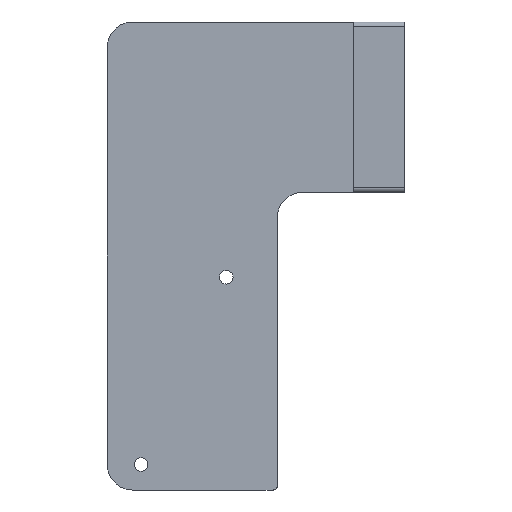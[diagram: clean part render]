
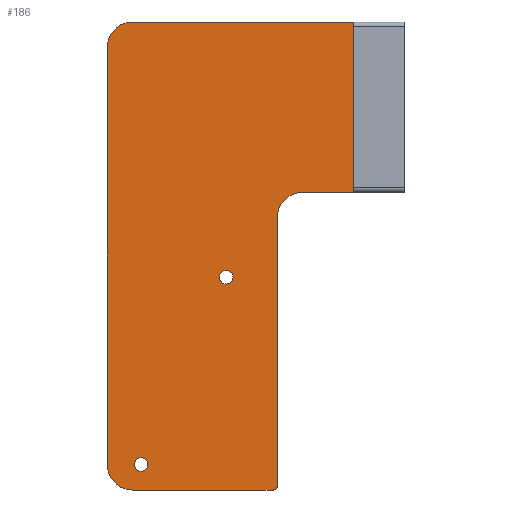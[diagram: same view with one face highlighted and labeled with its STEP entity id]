
A CAD part, left-side view. The second image highlights one B-rep face of the part: STEP entity #186.
In plain terms, the highlighted planar face has unit normal (-1, 0, 0).
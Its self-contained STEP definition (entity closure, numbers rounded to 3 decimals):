
#5 = ORIENTED_EDGE ( 'NONE', *, *, #836, .T. ) ;
#10 = AXIS2_PLACEMENT_3D ( 'NONE', #1083, #553, #479 ) ;
#19 = ORIENTED_EDGE ( 'NONE', *, *, #309, .T. ) ;
#22 = ORIENTED_EDGE ( 'NONE', *, *, #211, .T. ) ;
#25 = CARTESIAN_POINT ( 'NONE',  ( 24., 31., -51.2 ) ) ;
#30 = LINE ( 'NONE', #801, #143 ) ;
#35 = EDGE_CURVE ( 'NONE', #1017, #514, #180, .T. ) ;
#41 = LINE ( 'NONE', #483, #690 ) ;
#42 = CIRCLE ( 'NONE', #82, 0.8 ) ;
#50 = LINE ( 'NONE', #279, #636 ) ;
#52 = DIRECTION ( 'NONE',  ( 0., 0., -1. ) ) ;
#54 = EDGE_CURVE ( 'NONE', #581, #779, #806, .T. ) ;
#57 = DIRECTION ( 'NONE',  ( 1., 0., 0. ) ) ;
#61 = DIRECTION ( 'NONE',  ( 0., -1., 0. ) ) ;
#82 = AXIS2_PLACEMENT_3D ( 'NONE', #151, #830, #52 ) ;
#89 = EDGE_CURVE ( 'NONE', #1017, #550, #238, .T. ) ;
#125 = CARTESIAN_POINT ( 'NONE',  ( 24., 21., -29.2 ) ) ;
#129 = EDGE_CURVE ( 'NONE', #844, #815, #30, .T. ) ;
#138 = LINE ( 'NONE', #645, #556 ) ;
#143 = VECTOR ( 'NONE', #700, 1000. ) ;
#144 = DIRECTION ( 'NONE',  ( 1., 0., 0. ) ) ;
#151 = CARTESIAN_POINT ( 'NONE',  ( 24., 21., -30. ) ) ;
#153 = CARTESIAN_POINT ( 'NONE',  ( 24., 12., -20. ) ) ;
#165 = VERTEX_POINT ( 'NONE', #125 ) ;
#172 = CARTESIAN_POINT ( 'NONE',  ( 24., 6., 0. ) ) ;
#180 = LINE ( 'NONE', #699, #778 ) ;
#186 = ADVANCED_FACE ( 'NONE', ( #674, #626, #373 ), #991, .T. ) ;
#194 = ORIENTED_EDGE ( 'NONE', *, *, #1071, .T. ) ;
#197 = EDGE_CURVE ( 'NONE', #953, #815, #318, .T. ) ;
#201 = CARTESIAN_POINT ( 'NONE',  ( 24., 32., 0. ) ) ;
#205 = CIRCLE ( 'NONE', #1059, 0.8 ) ;
#211 = EDGE_CURVE ( 'NONE', #550, #953, #41, .T. ) ;
#212 = VERTEX_POINT ( 'NONE', #153 ) ;
#238 = CIRCLE ( 'NONE', #271, 3. ) ;
#271 = AXIS2_PLACEMENT_3D ( 'NONE', #1058, #972, #805 ) ;
#274 = CIRCLE ( 'NONE', #425, 0.8 ) ;
#277 = ORIENTED_EDGE ( 'NONE', *, *, #54, .F. ) ;
#279 = CARTESIAN_POINT ( 'NONE',  ( 24., 6., -55. ) ) ;
#297 = VERTEX_POINT ( 'NONE', #907 ) ;
#309 = EDGE_CURVE ( 'NONE', #383, #966, #274, .T. ) ;
#317 = CARTESIAN_POINT ( 'NONE',  ( 24., 35., -3. ) ) ;
#318 = CIRCLE ( 'NONE', #571, 0.5 ) ;
#328 = EDGE_CURVE ( 'NONE', #297, #165, #205, .T. ) ;
#330 = DIRECTION ( 'NONE',  ( 0., -1., 0. ) ) ;
#339 = ORIENTED_EDGE ( 'NONE', *, *, #197, .T. ) ;
#345 = EDGE_CURVE ( 'NONE', #844, #212, #973, .T. ) ;
#346 = DIRECTION ( 'NONE',  ( 1., 0., 0. ) ) ;
#373 = FACE_OUTER_BOUND ( 'NONE', #707, .T. ) ;
#383 = VERTEX_POINT ( 'NONE', #918 ) ;
#421 = CIRCLE ( 'NONE', #564, 0.8 ) ;
#425 = AXIS2_PLACEMENT_3D ( 'NONE', #562, #144, #732 ) ;
#428 = CARTESIAN_POINT ( 'NONE',  ( 24., 15.5, -55. ) ) ;
#438 = DIRECTION ( 'NONE',  ( 0., 0., 1. ) ) ;
#469 = AXIS2_PLACEMENT_3D ( 'NONE', #557, #57, #643 ) ;
#477 = CARTESIAN_POINT ( 'NONE',  ( 24., 32., -55. ) ) ;
#479 = DIRECTION ( 'NONE',  ( 0., -1., 0. ) ) ;
#483 = CARTESIAN_POINT ( 'NONE',  ( 24., 35., -55. ) ) ;
#504 = CARTESIAN_POINT ( 'NONE',  ( 24., 15., -54.5 ) ) ;
#514 = VERTEX_POINT ( 'NONE', #317 ) ;
#530 = DIRECTION ( 'NONE',  ( 0., -1., 0. ) ) ;
#550 = VERTEX_POINT ( 'NONE', #477 ) ;
#553 = DIRECTION ( 'NONE',  ( -1., 0., 0. ) ) ;
#556 = VECTOR ( 'NONE', #990, 1000. ) ;
#557 = CARTESIAN_POINT ( 'NONE',  ( 24., 12., -23. ) ) ;
#562 = CARTESIAN_POINT ( 'NONE',  ( 24., 31., -52. ) ) ;
#564 = AXIS2_PLACEMENT_3D ( 'NONE', #926, #346, #1099 ) ;
#571 = AXIS2_PLACEMENT_3D ( 'NONE', #928, #658, #61 ) ;
#581 = VERTEX_POINT ( 'NONE', #201 ) ;
#596 = AXIS2_PLACEMENT_3D ( 'NONE', #892, #746, #330 ) ;
#600 = EDGE_CURVE ( 'NONE', #165, #297, #42, .T. ) ;
#601 = CARTESIAN_POINT ( 'NONE',  ( 24., 15., -23. ) ) ;
#618 = DIRECTION ( 'NONE',  ( 0., 0., 1. ) ) ;
#626 = FACE_BOUND ( 'NONE', #655, .T. ) ;
#628 = ORIENTED_EDGE ( 'NONE', *, *, #129, .F. ) ;
#632 = ORIENTED_EDGE ( 'NONE', *, *, #345, .T. ) ;
#635 = DIRECTION ( 'NONE',  ( 0., 0., -1. ) ) ;
#636 = VECTOR ( 'NONE', #438, 1000. ) ;
#643 = DIRECTION ( 'NONE',  ( 0., -1., 0. ) ) ;
#645 = CARTESIAN_POINT ( 'NONE',  ( 24., 35., -20. ) ) ;
#655 = EDGE_LOOP ( 'NONE', ( #19, #194 ) ) ;
#658 = DIRECTION ( 'NONE',  ( -1., 0., 0. ) ) ;
#662 = ORIENTED_EDGE ( 'NONE', *, *, #89, .T. ) ;
#674 = FACE_BOUND ( 'NONE', #987, .T. ) ;
#690 = VECTOR ( 'NONE', #751, 1000. ) ;
#699 = CARTESIAN_POINT ( 'NONE',  ( 24., 35., -55. ) ) ;
#700 = DIRECTION ( 'NONE',  ( 0., 0., -1. ) ) ;
#707 = EDGE_LOOP ( 'NONE', ( #22, #339, #628, #632, #808, #5, #277, #958, #901, #662 ) ) ;
#732 = DIRECTION ( 'NONE',  ( 0., 0., -1. ) ) ;
#740 = DIRECTION ( 'NONE',  ( 1., 0., 0. ) ) ;
#746 = DIRECTION ( 'NONE',  ( -1., 0., 0. ) ) ;
#751 = DIRECTION ( 'NONE',  ( 0., -1., 0. ) ) ;
#755 = CIRCLE ( 'NONE', #10, 3. ) ;
#778 = VECTOR ( 'NONE', #618, 1000. ) ;
#779 = VERTEX_POINT ( 'NONE', #172 ) ;
#801 = CARTESIAN_POINT ( 'NONE',  ( 24., 15., -55. ) ) ;
#805 = DIRECTION ( 'NONE',  ( 0., -1., 0. ) ) ;
#806 = LINE ( 'NONE', #970, #1089 ) ;
#808 = ORIENTED_EDGE ( 'NONE', *, *, #971, .F. ) ;
#815 = VERTEX_POINT ( 'NONE', #504 ) ;
#830 = DIRECTION ( 'NONE',  ( 1., 0., 0. ) ) ;
#836 = EDGE_CURVE ( 'NONE', #1045, #779, #50, .T. ) ;
#844 = VERTEX_POINT ( 'NONE', #601 ) ;
#892 = CARTESIAN_POINT ( 'NONE',  ( 24., 35., -55. ) ) ;
#901 = ORIENTED_EDGE ( 'NONE', *, *, #35, .F. ) ;
#902 = CARTESIAN_POINT ( 'NONE',  ( 24., 35., -52. ) ) ;
#907 = CARTESIAN_POINT ( 'NONE',  ( 24., 21., -30.8 ) ) ;
#911 = CARTESIAN_POINT ( 'NONE',  ( 24., 21., -30. ) ) ;
#918 = CARTESIAN_POINT ( 'NONE',  ( 24., 31., -52.8 ) ) ;
#921 = ORIENTED_EDGE ( 'NONE', *, *, #328, .T. ) ;
#926 = CARTESIAN_POINT ( 'NONE',  ( 24., 31., -52. ) ) ;
#928 = CARTESIAN_POINT ( 'NONE',  ( 24., 15.5, -54.5 ) ) ;
#953 = VERTEX_POINT ( 'NONE', #428 ) ;
#958 = ORIENTED_EDGE ( 'NONE', *, *, #960, .T. ) ;
#960 = EDGE_CURVE ( 'NONE', #581, #514, #755, .T. ) ;
#966 = VERTEX_POINT ( 'NONE', #25 ) ;
#970 = CARTESIAN_POINT ( 'NONE',  ( 24., 35., 0. ) ) ;
#971 = EDGE_CURVE ( 'NONE', #1045, #212, #138, .T. ) ;
#972 = DIRECTION ( 'NONE',  ( -1., 0., 0. ) ) ;
#973 = CIRCLE ( 'NONE', #469, 3. ) ;
#978 = ORIENTED_EDGE ( 'NONE', *, *, #600, .T. ) ;
#987 = EDGE_LOOP ( 'NONE', ( #921, #978 ) ) ;
#990 = DIRECTION ( 'NONE',  ( 0., 1., 0. ) ) ;
#991 = PLANE ( 'NONE',  #596 ) ;
#1017 = VERTEX_POINT ( 'NONE', #902 ) ;
#1045 = VERTEX_POINT ( 'NONE', #1073 ) ;
#1058 = CARTESIAN_POINT ( 'NONE',  ( 24., 32., -52. ) ) ;
#1059 = AXIS2_PLACEMENT_3D ( 'NONE', #911, #740, #635 ) ;
#1071 = EDGE_CURVE ( 'NONE', #966, #383, #421, .T. ) ;
#1073 = CARTESIAN_POINT ( 'NONE',  ( 24., 6., -20. ) ) ;
#1083 = CARTESIAN_POINT ( 'NONE',  ( 24., 32., -3. ) ) ;
#1089 = VECTOR ( 'NONE', #530, 1000. ) ;
#1099 = DIRECTION ( 'NONE',  ( 0., 0., -1. ) ) ;
